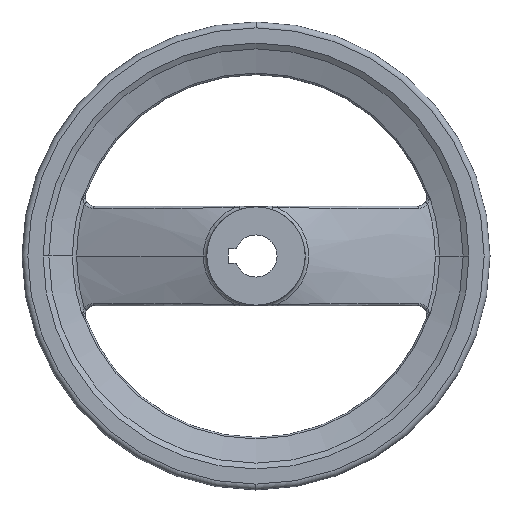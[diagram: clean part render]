
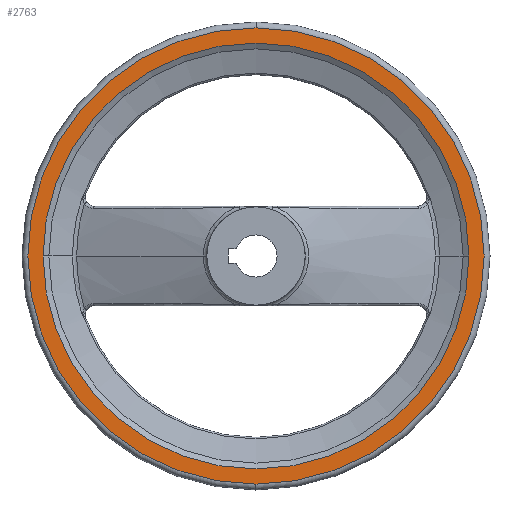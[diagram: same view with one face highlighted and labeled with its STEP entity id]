
A CAD part, left-side view. The second image highlights one B-rep face of the part: STEP entity #2763.
In plain terms, the highlighted planar face has unit normal (-1, 0, 0).
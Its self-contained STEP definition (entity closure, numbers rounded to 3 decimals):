
#24 = EDGE_CURVE ( 'NONE', #5702, #6107, #1943, .T. ) ;
#219 = CARTESIAN_POINT ( 'NONE',  ( 26.74, 0., 97.5 ) ) ;
#444 = ORIENTED_EDGE ( 'NONE', *, *, #24, .T. ) ;
#490 = AXIS2_PLACEMENT_3D ( 'NONE', #5056, #3105, #2026 ) ;
#781 = CARTESIAN_POINT ( 'NONE',  ( 26.74, 91.014, 0. ) ) ;
#892 = EDGE_CURVE ( 'NONE', #6257, #2909, #2164, .T. ) ;
#1375 = ORIENTED_EDGE ( 'NONE', *, *, #2635, .T. ) ;
#1421 = ORIENTED_EDGE ( 'NONE', *, *, #3833, .F. ) ;
#1480 = DIRECTION ( 'NONE',  ( -1., 0., 0. ) ) ;
#1535 = AXIS2_PLACEMENT_3D ( 'NONE', #1884, #5868, #4943 ) ;
#1872 = CARTESIAN_POINT ( 'NONE',  ( 26.74, 0., 0. ) ) ;
#1884 = CARTESIAN_POINT ( 'NONE',  ( 26.74, 100., 0. ) ) ;
#1943 = CIRCLE ( 'NONE', #2801, 97.5 ) ;
#2026 = DIRECTION ( 'NONE',  ( 0., 0., 1. ) ) ;
#2164 = CIRCLE ( 'NONE', #5901, 91.014 ) ;
#2635 = EDGE_CURVE ( 'NONE', #6107, #5702, #4983, .T. ) ;
#2763 = ADVANCED_FACE ( 'NONE', ( #3227, #5270 ), #3266, .T. ) ;
#2801 = AXIS2_PLACEMENT_3D ( 'NONE', #6132, #6531, #3082 ) ;
#2909 = VERTEX_POINT ( 'NONE', #781 ) ;
#2929 = CARTESIAN_POINT ( 'NONE',  ( 26.74, 0., 0. ) ) ;
#3082 = DIRECTION ( 'NONE',  ( 0., 0., 1. ) ) ;
#3105 = DIRECTION ( 'NONE',  ( -1., 0., 0. ) ) ;
#3163 = AXIS2_PLACEMENT_3D ( 'NONE', #1872, #3942, #5952 ) ;
#3227 = FACE_OUTER_BOUND ( 'NONE', #4388, .T. ) ;
#3266 = PLANE ( 'NONE',  #1535 ) ;
#3732 = CARTESIAN_POINT ( 'NONE',  ( 26.74, 0., -97.5 ) ) ;
#3766 = CARTESIAN_POINT ( 'NONE',  ( 26.74, -91.014, 0. ) ) ;
#3826 = CIRCLE ( 'NONE', #3163, 91.014 ) ;
#3833 = EDGE_CURVE ( 'NONE', #2909, #6257, #3826, .T. ) ;
#3942 = DIRECTION ( 'NONE',  ( -1., 0., 0. ) ) ;
#4388 = EDGE_LOOP ( 'NONE', ( #444, #1375 ) ) ;
#4508 = DIRECTION ( 'NONE',  ( 0., 0., 1. ) ) ;
#4943 = DIRECTION ( 'NONE',  ( 0., 0., 1. ) ) ;
#4983 = CIRCLE ( 'NONE', #490, 97.5 ) ;
#5056 = CARTESIAN_POINT ( 'NONE',  ( 26.74, 0., 0. ) ) ;
#5270 = FACE_BOUND ( 'NONE', #5560, .T. ) ;
#5560 = EDGE_LOOP ( 'NONE', ( #6236, #1421 ) ) ;
#5702 = VERTEX_POINT ( 'NONE', #219 ) ;
#5868 = DIRECTION ( 'NONE',  ( -1., 0., 0. ) ) ;
#5901 = AXIS2_PLACEMENT_3D ( 'NONE', #2929, #1480, #4508 ) ;
#5952 = DIRECTION ( 'NONE',  ( 0., 0., 1. ) ) ;
#6107 = VERTEX_POINT ( 'NONE', #3732 ) ;
#6132 = CARTESIAN_POINT ( 'NONE',  ( 26.74, 0., 0. ) ) ;
#6236 = ORIENTED_EDGE ( 'NONE', *, *, #892, .F. ) ;
#6257 = VERTEX_POINT ( 'NONE', #3766 ) ;
#6531 = DIRECTION ( 'NONE',  ( -1., 0., 0. ) ) ;
